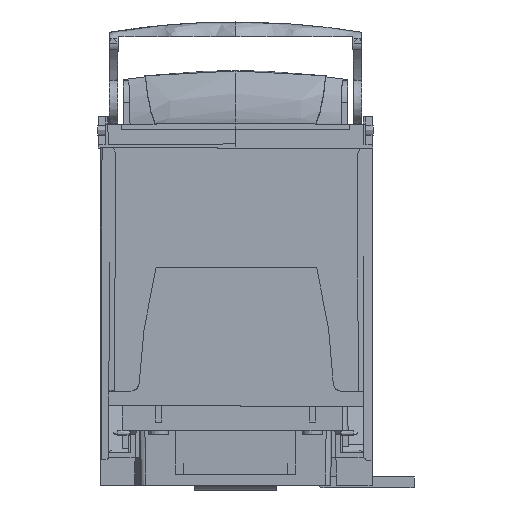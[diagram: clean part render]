
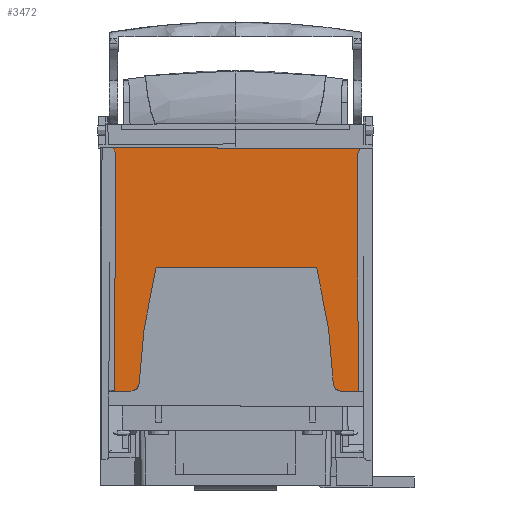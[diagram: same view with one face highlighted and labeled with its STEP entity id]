
A CAD part, left-side view. The second image highlights one B-rep face of the part: STEP entity #3472.
In plain terms, the highlighted planar face has unit normal (-1, 0, -0.004).
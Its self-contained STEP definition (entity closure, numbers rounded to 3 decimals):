
#551=(
BOUNDED_CURVE()
B_SPLINE_CURVE(3,(#60132,#60133,#60134,#60135),.UNSPECIFIED.,.F.,.F.)
B_SPLINE_CURVE_WITH_KNOTS((4,4),(0.,1.),.UNSPECIFIED.)
CURVE()
GEOMETRIC_REPRESENTATION_ITEM()
RATIONAL_B_SPLINE_CURVE((1.,0.825,0.825,1.))
REPRESENTATION_ITEM('')
);
#552=(
BOUNDED_CURVE()
B_SPLINE_CURVE(3,(#60141,#60142,#60143,#60144),.UNSPECIFIED.,.F.,.F.)
B_SPLINE_CURVE_WITH_KNOTS((4,4),(0.,1.),.UNSPECIFIED.)
CURVE()
GEOMETRIC_REPRESENTATION_ITEM()
RATIONAL_B_SPLINE_CURVE((1.,0.848,0.848,1.))
REPRESENTATION_ITEM('')
);
#553=(
BOUNDED_CURVE()
B_SPLINE_CURVE(3,(#60148,#60149,#60150,#60151),.UNSPECIFIED.,.F.,.F.)
B_SPLINE_CURVE_WITH_KNOTS((4,4),(0.,1.),.UNSPECIFIED.)
CURVE()
GEOMETRIC_REPRESENTATION_ITEM()
RATIONAL_B_SPLINE_CURVE((1.,0.848,0.848,1.))
REPRESENTATION_ITEM('')
);
#554=(
BOUNDED_CURVE()
B_SPLINE_CURVE(3,(#60157,#60158,#60159,#60160),.UNSPECIFIED.,.F.,.F.)
B_SPLINE_CURVE_WITH_KNOTS((4,4),(0.,1.),.UNSPECIFIED.)
CURVE()
GEOMETRIC_REPRESENTATION_ITEM()
RATIONAL_B_SPLINE_CURVE((1.,0.825,0.825,1.))
REPRESENTATION_ITEM('')
);
#3472=ADVANCED_FACE('',(#7107),#5513,.F.);
#5513=PLANE('',#43789);
#7107=FACE_OUTER_BOUND('',#9234,.T.);
#9234=EDGE_LOOP('',(#13891,#13892,#13893,#13894,#13895,#13896,#13897,#13898,
#13899,#13900,#13901,#13902,#13903,#13904,#13905,#13906,#13907,#13908));
#13891=ORIENTED_EDGE('',*,*,#28436,.F.);
#13892=ORIENTED_EDGE('',*,*,#28441,.T.);
#13893=ORIENTED_EDGE('',*,*,#29861,.T.);
#13894=ORIENTED_EDGE('',*,*,#29862,.T.);
#13895=ORIENTED_EDGE('',*,*,#29863,.F.);
#13896=ORIENTED_EDGE('',*,*,#29864,.T.);
#13897=ORIENTED_EDGE('',*,*,#29865,.T.);
#13898=ORIENTED_EDGE('',*,*,#29866,.T.);
#13899=ORIENTED_EDGE('',*,*,#29867,.T.);
#13900=ORIENTED_EDGE('',*,*,#29868,.T.);
#13901=ORIENTED_EDGE('',*,*,#29869,.F.);
#13902=ORIENTED_EDGE('',*,*,#29870,.T.);
#13903=ORIENTED_EDGE('',*,*,#29871,.T.);
#13904=ORIENTED_EDGE('',*,*,#29872,.T.);
#13905=ORIENTED_EDGE('',*,*,#29501,.T.);
#13906=ORIENTED_EDGE('',*,*,#29498,.F.);
#13907=ORIENTED_EDGE('',*,*,#28041,.F.);
#13908=ORIENTED_EDGE('',*,*,#29497,.F.);
#23793=VERTEX_POINT('',#55030);
#23794=VERTEX_POINT('',#55032);
#24135=VERTEX_POINT('',#56042);
#24136=VERTEX_POINT('',#56044);
#24139=VERTEX_POINT('',#56053);
#24929=VERTEX_POINT('',#59206);
#24931=VERTEX_POINT('',#59212);
#25150=VERTEX_POINT('',#60131);
#25151=VERTEX_POINT('',#60136);
#25152=VERTEX_POINT('',#60138);
#25153=VERTEX_POINT('',#60140);
#25154=VERTEX_POINT('',#60145);
#25155=VERTEX_POINT('',#60147);
#25156=VERTEX_POINT('',#60152);
#25157=VERTEX_POINT('',#60154);
#25158=VERTEX_POINT('',#60156);
#25159=VERTEX_POINT('',#60161);
#25160=VERTEX_POINT('',#60163);
#28041=EDGE_CURVE('',#23793,#23794,#34414,.T.);
#28436=EDGE_CURVE('',#24135,#24136,#34700,.T.);
#28441=EDGE_CURVE('',#24135,#24139,#34704,.T.);
#29497=EDGE_CURVE('',#24136,#23793,#35548,.T.);
#29498=EDGE_CURVE('',#23794,#24929,#35549,.T.);
#29501=EDGE_CURVE('',#24931,#24929,#35552,.T.);
#29861=EDGE_CURVE('',#24139,#25150,#35836,.T.);
#29862=EDGE_CURVE('',#25150,#25151,#551,.T.);
#29863=EDGE_CURVE('',#25152,#25151,#35837,.T.);
#29864=EDGE_CURVE('',#25152,#25153,#35838,.T.);
#29865=EDGE_CURVE('',#25153,#25154,#552,.T.);
#29866=EDGE_CURVE('',#25154,#25155,#35839,.T.);
#29867=EDGE_CURVE('',#25155,#25156,#553,.T.);
#29868=EDGE_CURVE('',#25156,#25157,#35840,.T.);
#29869=EDGE_CURVE('',#25158,#25157,#35841,.T.);
#29870=EDGE_CURVE('',#25158,#25159,#554,.T.);
#29871=EDGE_CURVE('',#25159,#25160,#35842,.T.);
#29872=EDGE_CURVE('',#25160,#24931,#35843,.T.);
#34414=LINE('',#55031,#38759);
#34700=LINE('',#56043,#39045);
#34704=LINE('',#56052,#39049);
#35548=LINE('',#59203,#39893);
#35549=LINE('',#59205,#39894);
#35552=LINE('',#59211,#39897);
#35836=LINE('',#60130,#40181);
#35837=LINE('',#60137,#40182);
#35838=LINE('',#60139,#40183);
#35839=LINE('',#60146,#40184);
#35840=LINE('',#60153,#40185);
#35841=LINE('',#60155,#40186);
#35842=LINE('',#60162,#40187);
#35843=LINE('',#60164,#40188);
#38759=VECTOR('',#45631,1.);
#39045=VECTOR('',#46153,1.);
#39049=VECTOR('',#46161,1.);
#39893=VECTOR('',#47825,1.);
#39894=VECTOR('',#47828,1.);
#39897=VECTOR('',#47833,1.);
#40181=VECTOR('',#48431,1.);
#40182=VECTOR('',#48432,1.);
#40183=VECTOR('',#48433,1.);
#40184=VECTOR('',#48434,1.);
#40185=VECTOR('',#48435,1.);
#40186=VECTOR('',#48436,1.);
#40187=VECTOR('',#48437,1.);
#40188=VECTOR('',#48438,1.);
#43789=AXIS2_PLACEMENT_3D('',#60165,#48439,#48440);
#45631=DIRECTION('',(0.,-1.,-0.002));
#46153=DIRECTION('',(0.,-1.,-0.002));
#46161=DIRECTION('',(0.004,0.006,-1.));
#47825=DIRECTION('',(-0.004,-0.175,0.984));
#47828=DIRECTION('',(0.004,-0.172,-0.985));
#47833=DIRECTION('',(0.,1.,0.002));
#48431=DIRECTION('',(0.,-1.,-0.002));
#48432=DIRECTION('',(0.004,0.089,-0.996));
#48433=DIRECTION('',(-0.004,-0.193,0.981));
#48434=DIRECTION('',(0.,-1.,-0.002));
#48435=DIRECTION('',(0.004,-0.189,-0.982));
#48436=DIRECTION('',(-0.004,0.085,0.996));
#48437=DIRECTION('',(0.,-1.,-0.002));
#48438=DIRECTION('',(-0.004,0.003,1.));
#48439=DIRECTION('',(1.,0.,0.004));
#48440=DIRECTION('',(-0.004,-0.002,1.));
#55030=CARTESIAN_POINT('',(-278.772,41.905,122.835));
#55031=CARTESIAN_POINT('',(-278.77,-39.368,122.693));
#55032=CARTESIAN_POINT('',(-278.77,-42.739,122.687));
#56042=CARTESIAN_POINT('',(-278.772,45.589,122.841));
#56043=CARTESIAN_POINT('',(-278.77,-39.368,122.693));
#56044=CARTESIAN_POINT('',(-278.772,41.905,122.835));
#56052=CARTESIAN_POINT('',(-278.396,46.116,36.682));
#56053=CARTESIAN_POINT('',(-278.385,46.131,34.218));
#59203=CARTESIAN_POINT('',(-278.779,41.638,124.336));
#59205=CARTESIAN_POINT('',(-278.803,-41.43,130.189));
#59206=CARTESIAN_POINT('',(-278.77,-42.739,122.687));
#59211=CARTESIAN_POINT('',(-278.77,-39.368,122.693));
#59212=CARTESIAN_POINT('',(-278.77,-46.434,122.681));
#60130=CARTESIAN_POINT('',(-278.385,45.738,34.217));
#60131=CARTESIAN_POINT('',(-278.385,38.075,34.204));
#60132=CARTESIAN_POINT('',(-278.385,38.075,34.204));
#60133=CARTESIAN_POINT('',(-278.385,36.437,34.201));
#60134=CARTESIAN_POINT('',(-278.39,35.227,35.306));
#60135=CARTESIAN_POINT('',(-278.397,35.082,36.937));
#60136=CARTESIAN_POINT('',(-278.397,35.082,36.937));
#60137=CARTESIAN_POINT('',(-278.422,34.563,42.745));
#60138=CARTESIAN_POINT('',(-278.484,33.309,56.805));
#60139=CARTESIAN_POINT('',(-278.457,34.521,50.627));
#60140=CARTESIAN_POINT('',(-278.58,28.973,78.903));
#60141=CARTESIAN_POINT('',(-278.58,28.973,78.903));
#60142=CARTESIAN_POINT('',(-278.581,28.925,79.149));
#60143=CARTESIAN_POINT('',(-278.582,28.732,79.307));
#60144=CARTESIAN_POINT('',(-278.582,28.482,79.307));
#60145=CARTESIAN_POINT('',(-278.582,28.482,79.307));
#60146=CARTESIAN_POINT('',(-278.58,-39.292,79.189));
#60147=CARTESIAN_POINT('',(-278.581,-29.164,79.206));
#60148=CARTESIAN_POINT('',(-278.581,-29.164,79.206));
#60149=CARTESIAN_POINT('',(-278.581,-29.414,79.206));
#60150=CARTESIAN_POINT('',(-278.58,-29.607,79.046));
#60151=CARTESIAN_POINT('',(-278.579,-29.654,78.801));
#60152=CARTESIAN_POINT('',(-278.579,-29.654,78.801));
#60153=CARTESIAN_POINT('',(-278.391,-37.914,35.909));
#60154=CARTESIAN_POINT('',(-278.482,-33.912,56.688));
#60155=CARTESIAN_POINT('',(-278.391,-35.698,35.859));
#60156=CARTESIAN_POINT('',(-278.395,-35.616,36.814));
#60157=CARTESIAN_POINT('',(-278.395,-35.616,36.814));
#60158=CARTESIAN_POINT('',(-278.388,-35.756,35.182));
#60159=CARTESIAN_POINT('',(-278.383,-36.962,34.073));
#60160=CARTESIAN_POINT('',(-278.383,-38.6,34.07));
#60161=CARTESIAN_POINT('',(-278.383,-38.6,34.07));
#60162=CARTESIAN_POINT('',(-278.383,-46.262,34.057));
#60163=CARTESIAN_POINT('',(-278.383,-46.666,34.056));
#60164=CARTESIAN_POINT('',(-278.787,-46.424,126.579));
#60165=CARTESIAN_POINT('',(-278.393,-39.217,36.16));
